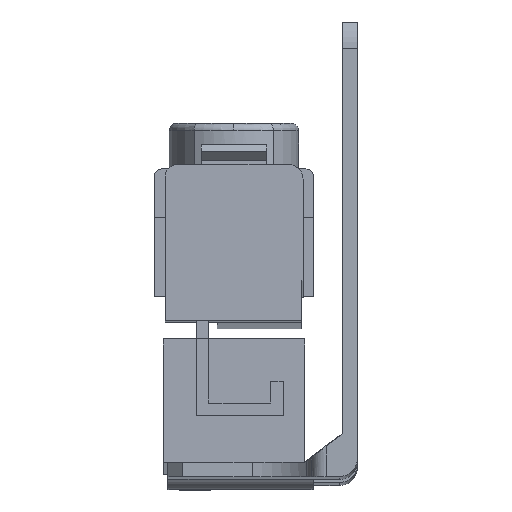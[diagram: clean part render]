
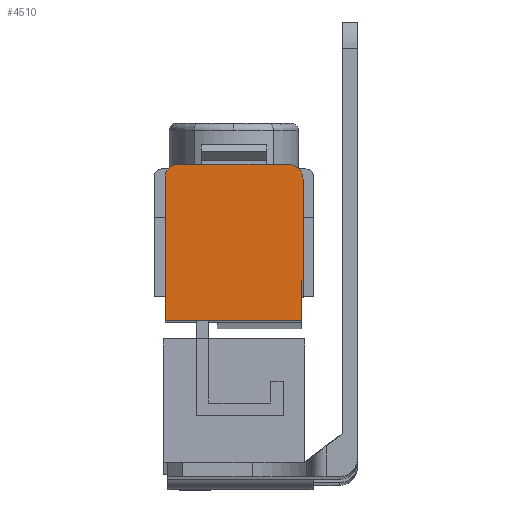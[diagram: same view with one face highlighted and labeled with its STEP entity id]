
A CAD part, front view. The second image highlights one B-rep face of the part: STEP entity #4510.
In plain terms, the highlighted planar face has unit normal (0, -1, 0.005).
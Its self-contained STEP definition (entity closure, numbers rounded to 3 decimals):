
#456 = CARTESIAN_POINT ( 'NONE',  ( -7.5, -24.185, -6.715 ) ) ;
#457 = DIRECTION ( 'NONE',  ( 0., 0.005, 1. ) ) ;
#462 = CARTESIAN_POINT ( 'NONE',  ( -9.55, -24.185, -6.715 ) ) ;
#463 = DIRECTION ( 'NONE',  ( 0., -1., 0.005 ) ) ;
#464 = DIRECTION ( 'NONE',  ( 0., 0.005, 1. ) ) ;
#471 = CARTESIAN_POINT ( 'NONE',  ( -24.75, -24.174, -4.665 ) ) ;
#472 = DIRECTION ( 'NONE',  ( -1., 0., 0. ) ) ;
#477 = CARTESIAN_POINT ( 'NONE',  ( -24.75, -24.183, -6.415 ) ) ;
#478 = DIRECTION ( 'NONE',  ( 0., -1., 0.005 ) ) ;
#479 = DIRECTION ( 'NONE',  ( 0., -0.005, -1. ) ) ;
#486 = CARTESIAN_POINT ( 'NONE',  ( -26.5, -24.183, -6.415 ) ) ;
#487 = DIRECTION ( 'NONE',  ( 0., -0.005, -1. ) ) ;
#488 = CARTESIAN_POINT ( 'NONE',  ( -26.5, -24.258, -20.664 ) ) ;
#489 = DIRECTION ( 'NONE',  ( 1., 0., 0. ) ) ;
#494 = CARTESIAN_POINT ( 'NONE',  ( -7.75, -24.287, -26.164 ) ) ;
#495 = DIRECTION ( 'NONE',  ( 1., 0., 0. ) ) ;
#496 = CARTESIAN_POINT ( 'NONE',  ( -7.75, -24.287, -26.164 ) ) ;
#497 = DIRECTION ( 'NONE',  ( 0., 0.005, 1. ) ) ;
#1033 = PLANE ( 'NONE',  #4300 ) ;
#1034 = CARTESIAN_POINT ( 'NONE',  ( -24.75, -24.183, -6.415 ) ) ;
#1035 = DIRECTION ( 'NONE',  ( 0., -1., 0.005 ) ) ;
#1036 = DIRECTION ( 'NONE',  ( 0., -0.005, -1. ) ) ;
#1474 = FACE_OUTER_BOUND ( 'NONE', #5781, .T. ) ;
#2187 = VERTEX_POINT ( 'NONE', #2442 ) ;
#2190 = VERTEX_POINT ( 'NONE', #2445 ) ;
#2200 = VERTEX_POINT ( 'NONE', #2455 ) ;
#2206 = VERTEX_POINT ( 'NONE', #2461 ) ;
#2208 = VERTEX_POINT ( 'NONE', #2463 ) ;
#2213 = VERTEX_POINT ( 'NONE', #2468 ) ;
#2277 = VERTEX_POINT ( 'NONE', #2532 ) ;
#2367 = VERTEX_POINT ( 'NONE', #2622 ) ;
#2442 = CARTESIAN_POINT ( 'NONE',  ( -24.75, -24.174, -4.665 ) ) ;
#2445 = CARTESIAN_POINT ( 'NONE',  ( -9.55, -24.174, -4.665 ) ) ;
#2455 = CARTESIAN_POINT ( 'NONE',  ( -26.5, -24.183, -6.415 ) ) ;
#2461 = CARTESIAN_POINT ( 'NONE',  ( -7.75, -24.287, -26.164 ) ) ;
#2463 = CARTESIAN_POINT ( 'NONE',  ( -7.5, -24.185, -6.715 ) ) ;
#2468 = CARTESIAN_POINT ( 'NONE',  ( -26.5, -24.287, -26.164 ) ) ;
#2532 = CARTESIAN_POINT ( 'NONE',  ( -7.75, -24.258, -20.664 ) ) ;
#2622 = CARTESIAN_POINT ( 'NONE',  ( -7.5, -24.258, -20.664 ) ) ;
#3549 = LINE ( 'NONE', #456, #3550 ) ;
#3550 = VECTOR ( 'NONE', #457, 1000. ) ;
#3556 = CIRCLE ( 'NONE', #4214, 2.05 ) ;
#3562 = LINE ( 'NONE', #471, #3563 ) ;
#3563 = VECTOR ( 'NONE', #472, 1000. ) ;
#3569 = CIRCLE ( 'NONE', #4215, 1.75 ) ;
#3575 = LINE ( 'NONE', #486, #3576 ) ;
#3576 = VECTOR ( 'NONE', #487, 1000. ) ;
#3577 = LINE ( 'NONE', #488, #3578 ) ;
#3578 = VECTOR ( 'NONE', #489, 1000. ) ;
#3583 = LINE ( 'NONE', #494, #3584 ) ;
#3584 = VECTOR ( 'NONE', #495, 1000. ) ;
#3585 = LINE ( 'NONE', #496, #3586 ) ;
#3586 = VECTOR ( 'NONE', #497, 1000. ) ;
#3966 = EDGE_CURVE ( 'NONE', #2367, #2208, #3549, .T. ) ;
#3969 = EDGE_CURVE ( 'NONE', #2208, #2190, #3556, .T. ) ;
#3973 = EDGE_CURVE ( 'NONE', #2190, #2187, #3562, .T. ) ;
#3976 = EDGE_CURVE ( 'NONE', #2187, #2200, #3569, .T. ) ;
#3980 = EDGE_CURVE ( 'NONE', #2200, #2213, #3575, .T. ) ;
#3981 = EDGE_CURVE ( 'NONE', #2277, #2367, #3577, .T. ) ;
#3984 = EDGE_CURVE ( 'NONE', #2213, #2206, #3583, .T. ) ;
#3985 = EDGE_CURVE ( 'NONE', #2206, #2277, #3585, .T. ) ;
#4214 = AXIS2_PLACEMENT_3D ( 'NONE', #462, #463, #464 ) ;
#4215 = AXIS2_PLACEMENT_3D ( 'NONE', #477, #478, #479 ) ;
#4300 = AXIS2_PLACEMENT_3D ( 'NONE', #1034, #1035, #1036 ) ;
#4510 = ADVANCED_FACE ( 'NONE', ( #1474 ), #1033, .T. ) ;
#4703 = ORIENTED_EDGE ( 'NONE', *, *, #3973, .T. ) ;
#4742 = ORIENTED_EDGE ( 'NONE', *, *, #3985, .T. ) ;
#4751 = ORIENTED_EDGE ( 'NONE', *, *, #3980, .T. ) ;
#4756 = ORIENTED_EDGE ( 'NONE', *, *, #3981, .T. ) ;
#4835 = ORIENTED_EDGE ( 'NONE', *, *, #3969, .T. ) ;
#4872 = ORIENTED_EDGE ( 'NONE', *, *, #3984, .T. ) ;
#4900 = ORIENTED_EDGE ( 'NONE', *, *, #3976, .T. ) ;
#4912 = ORIENTED_EDGE ( 'NONE', *, *, #3966, .T. ) ;
#5781 = EDGE_LOOP ( 'NONE', ( #4912, #4835, #4703, #4900, #4751, #4872, #4742, #4756 ) ) ;
